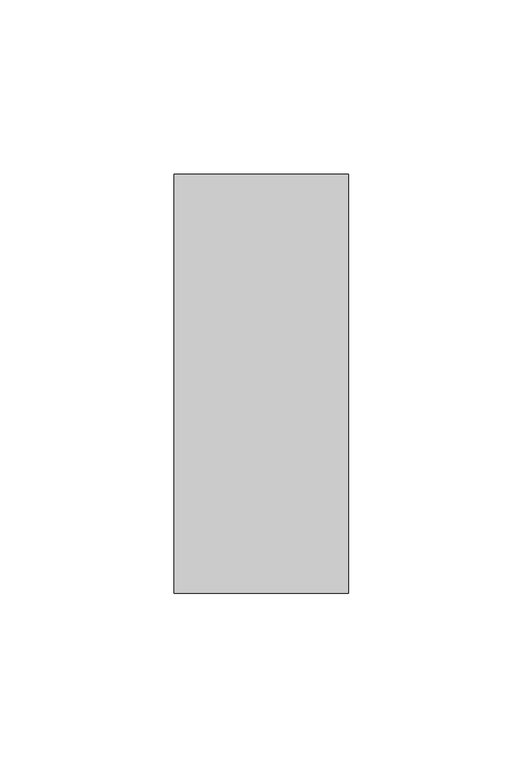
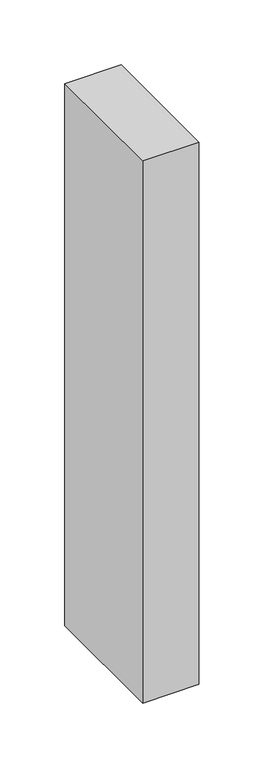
"""IFC4 building model written with IfcOpenShell, lengths in millimetres: member geometry, Прямоугольный импост : 50х120 мм."""

from ifc_helpers import new_model, si_unit, frame, origin, place, context, project, spatial, polyline, outline, extrude, source, transform, mapped, element, save


def member_db976e64(model_context):
    return source(origin(), model_context, "Body", "SweptSolid", [
        extrude(outline(polyline([(0.0, 60.0), (0.0, -60.0), (-50.0, -60.0), (-50.0, 60.0), (0.0, 60.0)])), frame((0.0, 0.0, -510.0), z_axis=(0.0, 0.0, 1.0), x_axis=(1.0, 0.0, 0.0)), (0.0, 0.0, 1.0), 510.0),
    ])


if __name__ == "__main__":
    model = new_model("IFC4")
    model_context = context("Model", 3, world=origin())
    ifc_project = project(units=[si_unit("LENGTHUNIT", "METRE", prefix="MILLI")], contexts=[model_context])
    site = spatial("IfcSite", under=ifc_project)
    building = spatial("IfcBuilding", under=site)
    placement = place(None, origin())
    member_shape = member_db976e64(model_context)
    element("IfcMember", 1, ObjectType="Прямоугольный импост : 50х120 мм", at=placement, inside=building, context=model_context, shape_type="MappedRepresentation", body=[
        mapped(member_shape, transform((0.0, 0.0, 0.0), x_axis=(1.0, 0.0, 0.0), y_axis=(0.0, 1.0, 0.0), z_axis=(0.0, 0.0, 1.0))),
    ])
    save(model, "model.ifc")
